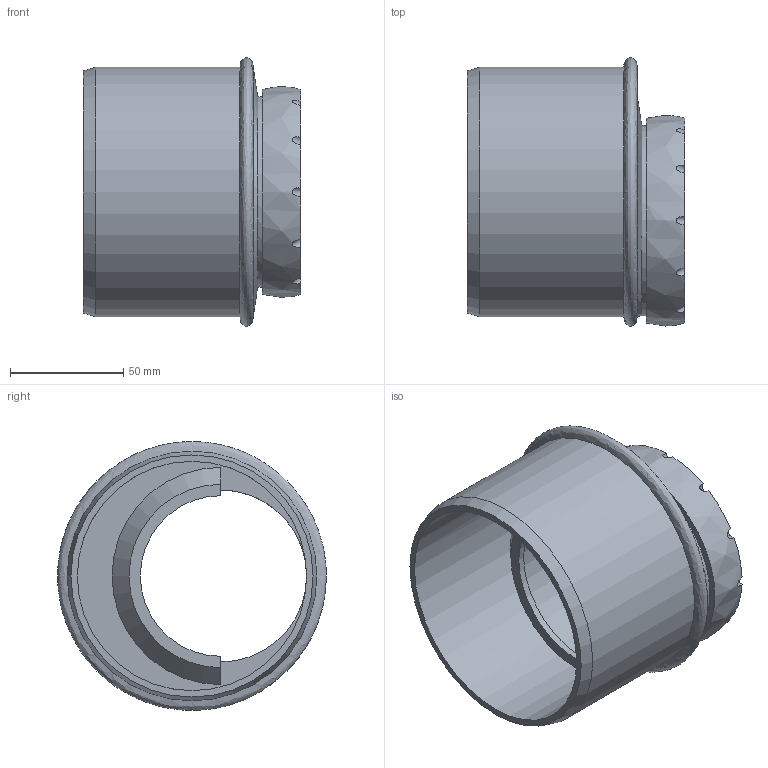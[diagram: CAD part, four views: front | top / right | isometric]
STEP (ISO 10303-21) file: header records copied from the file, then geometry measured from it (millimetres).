
FILE_DESCRIPTION(/* description */ (''),/* implementation_level */ '2;1');
FILE_NAME(/* name */ 'H:\Geberit-Teile\Export\Reduktion_ART\stp\393573.stp',/* time_stamp */ '2017-02-28T08:31:39+01:00',/* author */ ('seihe2'),/* organization */ (''),/* preprocessor_version */ 'ST-DEVELOPER v15.2',/* originating_system */ 'Autodesk Inventor 2014',/* authorisation */ '');
FILE_SCHEMA (('AUTOMOTIVE_DESIGN { 1 0 10303 214 3 1 1 }'));
Length unit declared in the file: millimetre
Products named in the file (1): 393573
Bounding box: 96 x 118.6 x 118.6 mm (x, y, z)
Volume: 199746.5 mm3; surface area: 87086 mm2
Topology: 1 solids, 1 shells, 35 faces, 89 edges, 59 vertices
Faces by surface type: cylinder 20, plane 10, bspline 3, cone 2
Full cylindrical faces by diameter (mm): 75.9 x1, 76.2 x1, 84 x1, 85 x1, 101.2 x1, 110.2 x1
Entity records: 1573 total; most frequent: CARTESIAN_POINT 686, DIRECTION 182, ORIENTED_EDGE 160, AXIS2_PLACEMENT_3D 84, EDGE_CURVE 80, VERTEX_POINT 57, EDGE_LOOP 47, CIRCLE 38
